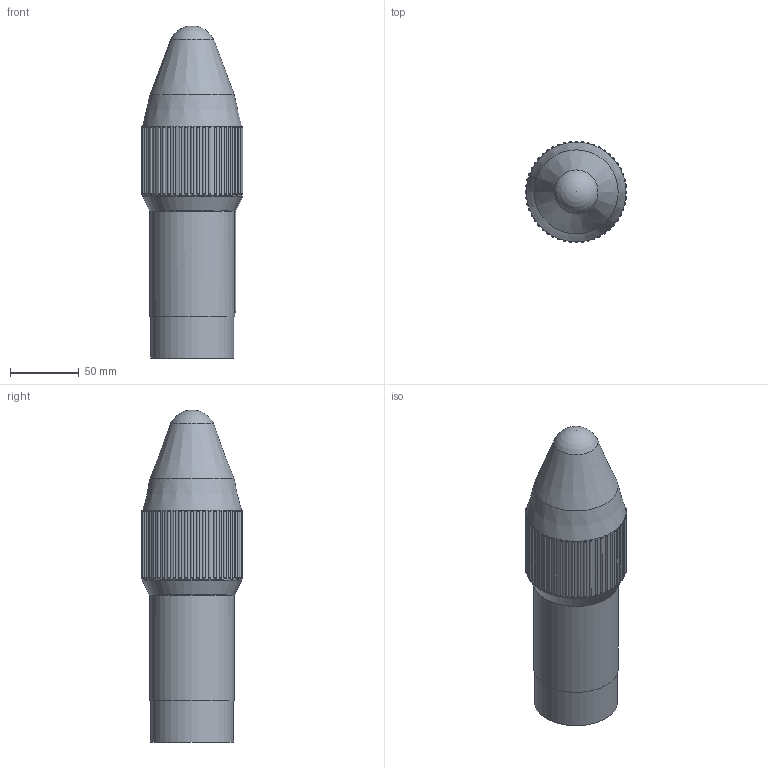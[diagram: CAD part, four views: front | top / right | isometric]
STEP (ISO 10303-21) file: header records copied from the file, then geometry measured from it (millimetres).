
FILE_DESCRIPTION(/* description */ (''),/* implementation_level */ '2;1');
FILE_NAME(/* name */ 'Spitze-Nutzlastkammer.stp',/* time_stamp */ '2026-03-30T18:55:22+02:00',/* author */ ('rs22sud'),/* organization */ (''),/* preprocessor_version */ 'ST-DEVELOPER v20.1',/* originating_system */ 'Autodesk Inventor 2026',/* authorisation */ '');
FILE_SCHEMA (('AUTOMOTIVE_DESIGN { 1 0 10303 214 3 1 1 }'));
Length unit declared in the file: millimetre
Products named in the file (1): Delta_2_60mm
Bounding box: 73.58 x 73.84 x 241.14 mm (x, y, z)
Volume: 58844.8 mm3; surface area: 94762.1 mm2
Topology: 1 solids, 1 shells, 288 faces, 742 edges, 454 vertices
Faces by surface type: plane 107, bspline 105, cylinder 59, torus 9, cone 6, sphere 2
Full cylindrical faces by diameter (mm): 57.9 x1, 59.1 x1, 60.3 x1, 61.5 x1, 69.696 x1, 72.096 x1
Entity records: 12466 total; most frequent: CARTESIAN_POINT 5920, ORIENTED_EDGE 1476, DIRECTION 1295, EDGE_CURVE 738, AXIS2_PLACEMENT_3D 590, VERTEX_POINT 454, CIRCLE 402, EDGE_LOOP 290
